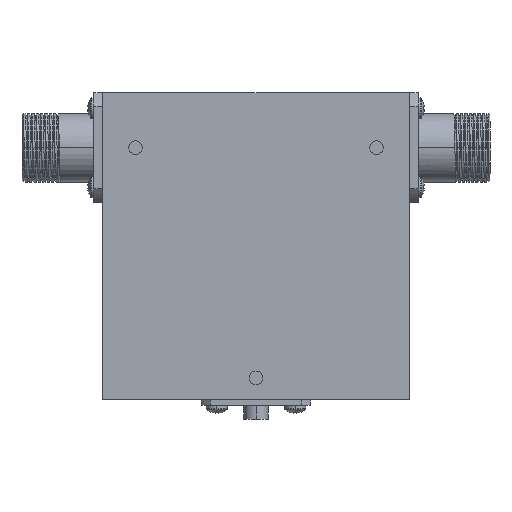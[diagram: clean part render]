
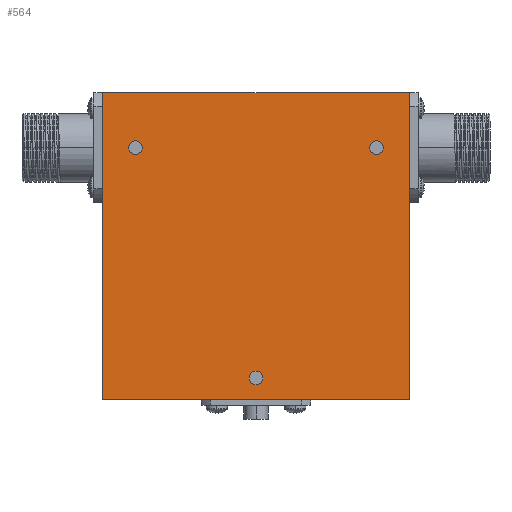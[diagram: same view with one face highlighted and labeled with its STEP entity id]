
A CAD part, top view. The second image highlights one B-rep face of the part: STEP entity #564.
In plain terms, the highlighted planar face has unit normal (0, 0, 1).
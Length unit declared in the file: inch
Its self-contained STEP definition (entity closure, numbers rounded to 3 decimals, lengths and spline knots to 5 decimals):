
#75 = FACE_BOUND ( 'NONE', #1058, .T. ) ;
#93 = ORIENTED_EDGE ( 'NONE', *, *, #5285, .T. ) ;
#166 = CARTESIAN_POINT ( 'NONE',  ( 0., -1.2, 0.5 ) ) ;
#204 = CARTESIAN_POINT ( 'NONE',  ( -1.4, 1.4, 0.5 ) ) ;
#208 = LINE ( 'NONE', #3124, #2396 ) ;
#245 = EDGE_CURVE ( 'NONE', #2211, #2102, #4413, .T. ) ;
#248 = DIRECTION ( 'NONE',  ( 1., 0., 0. ) ) ;
#280 = VERTEX_POINT ( 'NONE', #1906 ) ;
#327 = DIRECTION ( 'NONE',  ( 1., 0., 0. ) ) ;
#335 = VERTEX_POINT ( 'NONE', #1950 ) ;
#465 = ORIENTED_EDGE ( 'NONE', *, *, #5421, .T. ) ;
#564 = ADVANCED_FACE ( 'NONE', ( #2335, #3003, #75, #2054 ), #658, .T. ) ;
#628 = CARTESIAN_POINT ( 'NONE',  ( -1.4, -1.4, 0.5 ) ) ;
#658 = PLANE ( 'NONE',  #688 ) ;
#672 = CARTESIAN_POINT ( 'NONE',  ( -0.0625, -1.2, 0.5 ) ) ;
#688 = AXIS2_PLACEMENT_3D ( 'NONE', #3621, #1080, #248 ) ;
#705 = VECTOR ( 'NONE', #960, 39.37008 ) ;
#819 = EDGE_CURVE ( 'NONE', #4487, #1125, #1254, .T. ) ;
#960 = DIRECTION ( 'NONE',  ( -1., 0., 0. ) ) ;
#1058 = EDGE_LOOP ( 'NONE', ( #1868, #1764 ) ) ;
#1066 = CARTESIAN_POINT ( 'NONE',  ( 1.4, 1.4, 0.5 ) ) ;
#1069 = CARTESIAN_POINT ( 'NONE',  ( 1.0375, 0.9, 0.5 ) ) ;
#1071 = AXIS2_PLACEMENT_3D ( 'NONE', #3618, #1880, #5300 ) ;
#1080 = DIRECTION ( 'NONE',  ( 0., 0., 1. ) ) ;
#1109 = CARTESIAN_POINT ( 'NONE',  ( 0., -1.2, 0.5 ) ) ;
#1125 = VERTEX_POINT ( 'NONE', #628 ) ;
#1254 = LINE ( 'NONE', #2622, #5062 ) ;
#1437 = CARTESIAN_POINT ( 'NONE',  ( 1.1625, 0.9, 0.5 ) ) ;
#1511 = EDGE_CURVE ( 'NONE', #2102, #2211, #2730, .T. ) ;
#1569 = EDGE_LOOP ( 'NONE', ( #2523, #3123 ) ) ;
#1679 = CIRCLE ( 'NONE', #1855, 0.0625 ) ;
#1685 = CIRCLE ( 'NONE', #5170, 0.0625 ) ;
#1734 = ORIENTED_EDGE ( 'NONE', *, *, #4538, .T. ) ;
#1764 = ORIENTED_EDGE ( 'NONE', *, *, #4643, .F. ) ;
#1770 = DIRECTION ( 'NONE',  ( 1., 0., 0. ) ) ;
#1855 = AXIS2_PLACEMENT_3D ( 'NONE', #166, #4849, #5272 ) ;
#1868 = ORIENTED_EDGE ( 'NONE', *, *, #4584, .F. ) ;
#1880 = DIRECTION ( 'NONE',  ( 0., 0., 1. ) ) ;
#1884 = DIRECTION ( 'NONE',  ( 0., 1., 0. ) ) ;
#1897 = AXIS2_PLACEMENT_3D ( 'NONE', #4752, #2981, #1770 ) ;
#1906 = CARTESIAN_POINT ( 'NONE',  ( -1.1625, 0.9, 0.5 ) ) ;
#1909 = DIRECTION ( 'NONE',  ( 0., 0., 1. ) ) ;
#1950 = CARTESIAN_POINT ( 'NONE',  ( 1.4, -1.4, 0.5 ) ) ;
#2054 = FACE_OUTER_BOUND ( 'NONE', #4322, .T. ) ;
#2066 = VERTEX_POINT ( 'NONE', #3008 ) ;
#2102 = VERTEX_POINT ( 'NONE', #1437 ) ;
#2110 = ORIENTED_EDGE ( 'NONE', *, *, #2170, .F. ) ;
#2170 = EDGE_CURVE ( 'NONE', #2461, #2619, #1679, .T. ) ;
#2211 = VERTEX_POINT ( 'NONE', #1069 ) ;
#2293 = DIRECTION ( 'NONE',  ( 0., 0., 1. ) ) ;
#2335 = FACE_BOUND ( 'NONE', #1569, .T. ) ;
#2355 = DIRECTION ( 'NONE',  ( 1., 0., 0. ) ) ;
#2396 = VECTOR ( 'NONE', #1884, 39.37008 ) ;
#2461 = VERTEX_POINT ( 'NONE', #672 ) ;
#2523 = ORIENTED_EDGE ( 'NONE', *, *, #1511, .F. ) ;
#2619 = VERTEX_POINT ( 'NONE', #4291 ) ;
#2622 = CARTESIAN_POINT ( 'NONE',  ( -1.4, 1.4, 0.5 ) ) ;
#2730 = CIRCLE ( 'NONE', #1897, 0.0625 ) ;
#2847 = CARTESIAN_POINT ( 'NONE',  ( -1.1, 0.9, 0.5 ) ) ;
#2938 = LINE ( 'NONE', #3185, #3284 ) ;
#2969 = AXIS2_PLACEMENT_3D ( 'NONE', #4847, #2293, #3157 ) ;
#2981 = DIRECTION ( 'NONE',  ( 0., 0., 1. ) ) ;
#3003 = FACE_BOUND ( 'NONE', #4760, .T. ) ;
#3008 = CARTESIAN_POINT ( 'NONE',  ( -1.0375, 0.9, 0.5 ) ) ;
#3070 = AXIS2_PLACEMENT_3D ( 'NONE', #2847, #5423, #327 ) ;
#3123 = ORIENTED_EDGE ( 'NONE', *, *, #245, .F. ) ;
#3124 = CARTESIAN_POINT ( 'NONE',  ( 1.4, 1.4, 0.5 ) ) ;
#3157 = DIRECTION ( 'NONE',  ( 1., 0., 0. ) ) ;
#3185 = CARTESIAN_POINT ( 'NONE',  ( -1.4, -1.4, 0.5 ) ) ;
#3261 = DIRECTION ( 'NONE',  ( 1., 0., 0. ) ) ;
#3284 = VECTOR ( 'NONE', #3261, 39.37008 ) ;
#3479 = DIRECTION ( 'NONE',  ( 0., -1., 0. ) ) ;
#3618 = CARTESIAN_POINT ( 'NONE',  ( -1.1, 0.9, 0.5 ) ) ;
#3621 = CARTESIAN_POINT ( 'NONE',  ( 0., 0., 0.5 ) ) ;
#3624 = CIRCLE ( 'NONE', #3070, 0.0625 ) ;
#4291 = CARTESIAN_POINT ( 'NONE',  ( 0.0625, -1.2, 0.5 ) ) ;
#4322 = EDGE_LOOP ( 'NONE', ( #465, #93, #5406, #1734 ) ) ;
#4413 = CIRCLE ( 'NONE', #2969, 0.0625 ) ;
#4487 = VERTEX_POINT ( 'NONE', #204 ) ;
#4538 = EDGE_CURVE ( 'NONE', #1125, #335, #2938, .T. ) ;
#4569 = ORIENTED_EDGE ( 'NONE', *, *, #4960, .F. ) ;
#4584 = EDGE_CURVE ( 'NONE', #2066, #280, #5402, .T. ) ;
#4643 = EDGE_CURVE ( 'NONE', #280, #2066, #3624, .T. ) ;
#4752 = CARTESIAN_POINT ( 'NONE',  ( 1.1, 0.9, 0.5 ) ) ;
#4760 = EDGE_LOOP ( 'NONE', ( #4569, #2110 ) ) ;
#4765 = CARTESIAN_POINT ( 'NONE',  ( -1.4, 1.4, 0.5 ) ) ;
#4847 = CARTESIAN_POINT ( 'NONE',  ( 1.1, 0.9, 0.5 ) ) ;
#4849 = DIRECTION ( 'NONE',  ( 0., 0., 1. ) ) ;
#4927 = VERTEX_POINT ( 'NONE', #1066 ) ;
#4960 = EDGE_CURVE ( 'NONE', #2619, #2461, #1685, .T. ) ;
#5062 = VECTOR ( 'NONE', #3479, 39.37008 ) ;
#5170 = AXIS2_PLACEMENT_3D ( 'NONE', #1109, #1909, #2355 ) ;
#5232 = LINE ( 'NONE', #4765, #705 ) ;
#5272 = DIRECTION ( 'NONE',  ( 1., 0., 0. ) ) ;
#5285 = EDGE_CURVE ( 'NONE', #4927, #4487, #5232, .T. ) ;
#5300 = DIRECTION ( 'NONE',  ( 1., 0., 0. ) ) ;
#5402 = CIRCLE ( 'NONE', #1071, 0.0625 ) ;
#5406 = ORIENTED_EDGE ( 'NONE', *, *, #819, .T. ) ;
#5421 = EDGE_CURVE ( 'NONE', #335, #4927, #208, .T. ) ;
#5423 = DIRECTION ( 'NONE',  ( 0., 0., 1. ) ) ;
